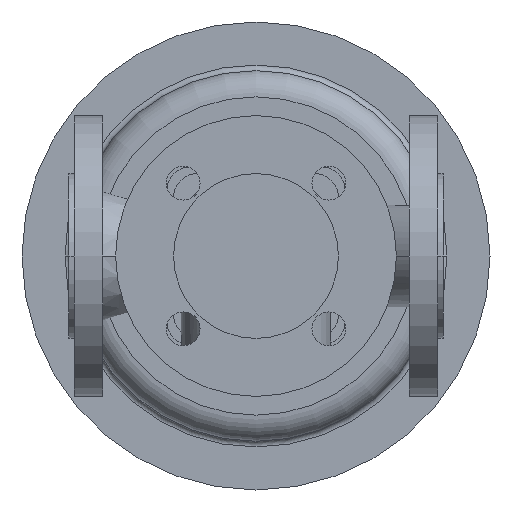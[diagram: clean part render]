
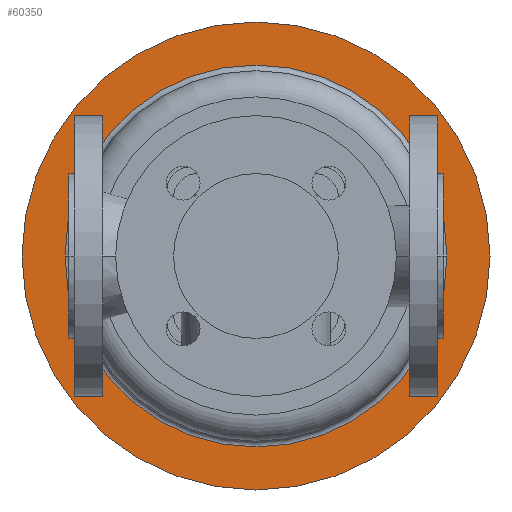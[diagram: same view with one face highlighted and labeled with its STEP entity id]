
A CAD part, front view. The second image highlights one B-rep face of the part: STEP entity #60350.
In plain terms, the highlighted planar face has unit normal (0, -1, 0).
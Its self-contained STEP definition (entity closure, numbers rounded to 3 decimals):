
#51580=CARTESIAN_POINT('',(225.,587.5,0.));
#51590=VERTEX_POINT('',#51580);
#51620=CARTESIAN_POINT('',(100.,587.5,0.));
#51630=DIRECTION('',(0.,1.,0.));
#51640=DIRECTION('',(1.,0.,0.));
#51650=AXIS2_PLACEMENT_3D('',#51620,#51630,#51640);
#51660=CIRCLE('',#51650,125.);
#51670=CARTESIAN_POINT('',(-25.,587.5,0.));
#51680=VERTEX_POINT('',#51670);
#51690=EDGE_CURVE('',#51680,#51590,#51660,.T.);
#52010=CARTESIAN_POINT('',(202.,587.5,0.));
#52020=VERTEX_POINT('',#52010);
#52190=CARTESIAN_POINT('',(-2.,587.5,0.));
#52200=VERTEX_POINT('',#52190);
#52230=CARTESIAN_POINT('',(100.,587.5,0.));
#52240=DIRECTION('',(0.,1.,0.));
#52250=DIRECTION('',(1.,0.,0.));
#52260=AXIS2_PLACEMENT_3D('',#52230,#52240,#52250);
#52270=CIRCLE('',#52260,102.);
#52280=EDGE_CURVE('',#52200,#52020,#52270,.T.);
#60200=CARTESIAN_POINT('',(213.5,587.5,0.));
#60210=DIRECTION('',(0.,-1.,0.));
#60220=DIRECTION('',(-1.,0.,0.));
#60230=AXIS2_PLACEMENT_3D('',#60200,#60210,#60220);
#60240=PLANE('',#60230);
#60250=ORIENTED_EDGE('',*,*,#51690,.F.);
#60260=EDGE_CURVE('',#51590,#51680,#51660,.T.);
#60270=ORIENTED_EDGE('',*,*,#60260,.F.);
#60280=EDGE_LOOP('',(#60270,#60250));
#60290=FACE_OUTER_BOUND('',#60280,.T.);
#60300=EDGE_CURVE('',#52020,#52200,#52270,.T.);
#60310=ORIENTED_EDGE('',*,*,#60300,.T.);
#60320=ORIENTED_EDGE('',*,*,#52280,.T.);
#60330=EDGE_LOOP('',(#60320,#60310));
#60340=FACE_BOUND('',#60330,.T.);
#60350=ADVANCED_FACE('',(#60290,#60340),#60240,.T.);
